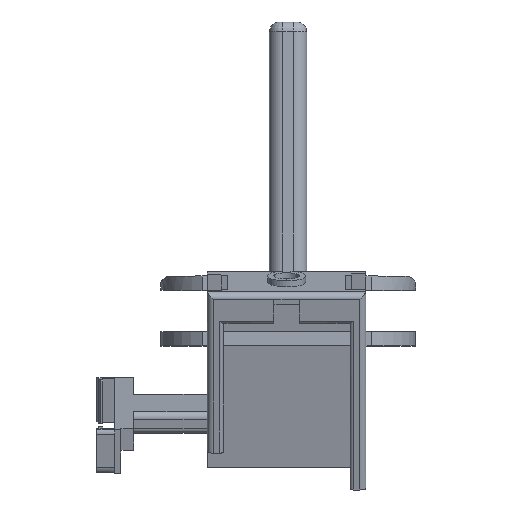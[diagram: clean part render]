
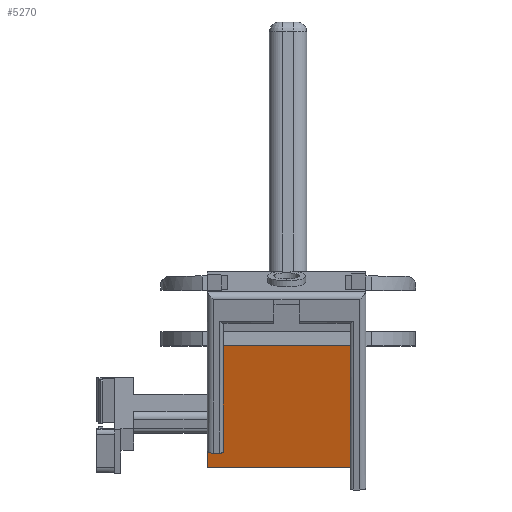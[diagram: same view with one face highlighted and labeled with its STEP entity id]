
A CAD part, top view. The second image highlights one B-rep face of the part: STEP entity #5270.
In plain terms, the highlighted planar face has unit normal (0, -0.259, 0.966).
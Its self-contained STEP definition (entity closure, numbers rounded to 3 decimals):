
#1767 = PLANE('',#1768);
#1768 = AXIS2_PLACEMENT_3D('',#1769,#1770,#1771);
#1769 = CARTESIAN_POINT('',(-95.487,-22.29,
    35.071));
#1770 = DIRECTION('',(-1.,0.,0.));
#1771 = DIRECTION('',(0.,0.259,-0.966
    ));
#3204 = PLANE('',#3205);
#3205 = AXIS2_PLACEMENT_3D('',#3206,#3207,#3208);
#3206 = CARTESIAN_POINT('',(-91.771,-15.118,
    8.305));
#3207 = DIRECTION('',(0.,-0.966,-0.259
    ));
#3208 = DIRECTION('',(0.,-0.259,0.966)
  );
#3369 = EDGE_CURVE('',#3370,#3372,#3374,.T.);
#3370 = VERTEX_POINT('',#3371);
#3371 = CARTESIAN_POINT('',(-95.487,-15.302,
    8.991));
#3372 = VERTEX_POINT('',#3373);
#3373 = CARTESIAN_POINT('',(-95.487,11.512,
    16.176));
#3374 = SURFACE_CURVE('',#3375,(#3379,#3386),.PCURVE_S1.);
#3375 = LINE('',#3376,#3377);
#3376 = CARTESIAN_POINT('',(-95.487,-26.893,
    5.885));
#3377 = VECTOR('',#3378,1.);
#3378 = DIRECTION('',(0.,0.966,0.259)
  );
#3379 = PCURVE('',#1767,#3380);
#3380 = DEFINITIONAL_REPRESENTATION('',(#3381),#3385);
#3381 = LINE('',#3382,#3383);
#3382 = CARTESIAN_POINT('',(27.,12.));
#3383 = VECTOR('',#3384,1.);
#3384 = DIRECTION('',(0.,-1.));
#3385 = ( GEOMETRIC_REPRESENTATION_CONTEXT(2) 
PARAMETRIC_REPRESENTATION_CONTEXT() REPRESENTATION_CONTEXT('2D SPACE',''
  ) );
#3386 = PCURVE('',#3387,#3392);
#3387 = PLANE('',#3388);
#3388 = AXIS2_PLACEMENT_3D('',#3389,#3390,#3391);
#3389 = CARTESIAN_POINT('',(-47.487,-26.893,
    5.885));
#3390 = DIRECTION('',(0.,0.259,-0.966
    ));
#3391 = DIRECTION('',(1.,0.,0.));
#3392 = DEFINITIONAL_REPRESENTATION('',(#3393),#3397);
#3393 = LINE('',#3394,#3395);
#3394 = CARTESIAN_POINT('',(-48.,0.));
#3395 = VECTOR('',#3396,1.);
#3396 = DIRECTION('',(0.,-1.));
#3397 = ( GEOMETRIC_REPRESENTATION_CONTEXT(2) 
PARAMETRIC_REPRESENTATION_CONTEXT() REPRESENTATION_CONTEXT('2D SPACE',''
  ) );
#3415 = PLANE('',#3416);
#3416 = AXIS2_PLACEMENT_3D('',#3417,#3418,#3419);
#3417 = CARTESIAN_POINT('',(-112.164,11.512,-30.));
#3418 = DIRECTION('',(0.,1.,0.));
#3419 = DIRECTION('',(0.,0.,-1.));
#3563 = CYLINDRICAL_SURFACE('',#3564,2.);
#3564 = AXIS2_PLACEMENT_3D('',#3565,#3566,#3567);
#3565 = CARTESIAN_POINT('',(-95.487,-26.893,
    5.885));
#3566 = DIRECTION('',(0.,0.966,0.259)
  );
#3567 = DIRECTION('',(0.,0.259,-0.966
    ));
#4987 = VERTEX_POINT('',#4988);
#4988 = CARTESIAN_POINT('',(-97.487,-15.302,
    8.991));
#5009 = EDGE_CURVE('',#3370,#4987,#5010,.T.);
#5010 = SURFACE_CURVE('',#5011,(#5015,#5022),.PCURVE_S1.);
#5011 = LINE('',#5012,#5013);
#5012 = CARTESIAN_POINT('',(-47.487,-15.302,
    8.991));
#5013 = VECTOR('',#5014,1.);
#5014 = DIRECTION('',(-1.,0.,0.));
#5015 = PCURVE('',#3204,#5016);
#5016 = DEFINITIONAL_REPRESENTATION('',(#5017),#5021);
#5017 = LINE('',#5018,#5019);
#5018 = CARTESIAN_POINT('',(0.71,-44.284));
#5019 = VECTOR('',#5020,1.);
#5020 = DIRECTION('',(0.,1.));
#5021 = ( GEOMETRIC_REPRESENTATION_CONTEXT(2) 
PARAMETRIC_REPRESENTATION_CONTEXT() REPRESENTATION_CONTEXT('2D SPACE',''
  ) );
#5022 = PCURVE('',#3387,#5023);
#5023 = DEFINITIONAL_REPRESENTATION('',(#5024),#5028);
#5024 = LINE('',#5025,#5026);
#5025 = CARTESIAN_POINT('',(0.,-12.));
#5026 = VECTOR('',#5027,1.);
#5027 = DIRECTION('',(-1.,0.));
#5028 = ( GEOMETRIC_REPRESENTATION_CONTEXT(2) 
PARAMETRIC_REPRESENTATION_CONTEXT() REPRESENTATION_CONTEXT('2D SPACE',''
  ) );
#5270 = ADVANCED_FACE('',(#5271),#3387,.F.);
#5271 = FACE_BOUND('',#5272,.T.);
#5272 = EDGE_LOOP('',(#5273,#5303,#5324,#5325,#5326,#5349));
#5273 = ORIENTED_EDGE('',*,*,#5274,.F.);
#5274 = EDGE_CURVE('',#5275,#5277,#5279,.T.);
#5275 = VERTEX_POINT('',#5276);
#5276 = CARTESIAN_POINT('',(-49.487,11.512,
    16.176));
#5277 = VERTEX_POINT('',#5278);
#5278 = CARTESIAN_POINT('',(-49.487,-26.893,
    5.885));
#5279 = SURFACE_CURVE('',#5280,(#5284,#5291),.PCURVE_S1.);
#5280 = LINE('',#5281,#5282);
#5281 = CARTESIAN_POINT('',(-49.487,-26.893,
    5.885));
#5282 = VECTOR('',#5283,1.);
#5283 = DIRECTION('',(0.,-0.966,-0.259
    ));
#5284 = PCURVE('',#3387,#5285);
#5285 = DEFINITIONAL_REPRESENTATION('',(#5286),#5290);
#5286 = LINE('',#5287,#5288);
#5287 = CARTESIAN_POINT('',(-2.,0.));
#5288 = VECTOR('',#5289,1.);
#5289 = DIRECTION('',(0.,1.));
#5290 = ( GEOMETRIC_REPRESENTATION_CONTEXT(2) 
PARAMETRIC_REPRESENTATION_CONTEXT() REPRESENTATION_CONTEXT('2D SPACE',''
  ) );
#5291 = PCURVE('',#5292,#5297);
#5292 = PLANE('',#5293);
#5293 = AXIS2_PLACEMENT_3D('',#5294,#5295,#5296);
#5294 = CARTESIAN_POINT('',(-49.487,-33.881,
    31.965));
#5295 = DIRECTION('',(1.,0.,0.));
#5296 = DIRECTION('',(0.,-0.259,0.966)
  );
#5297 = DEFINITIONAL_REPRESENTATION('',(#5298),#5302);
#5298 = LINE('',#5299,#5300);
#5299 = CARTESIAN_POINT('',(-27.,0.));
#5300 = VECTOR('',#5301,1.);
#5301 = DIRECTION('',(0.,1.));
#5302 = ( GEOMETRIC_REPRESENTATION_CONTEXT(2) 
PARAMETRIC_REPRESENTATION_CONTEXT() REPRESENTATION_CONTEXT('2D SPACE',''
  ) );
#5303 = ORIENTED_EDGE('',*,*,#5304,.T.);
#5304 = EDGE_CURVE('',#5275,#3372,#5305,.T.);
#5305 = SURFACE_CURVE('',#5306,(#5310,#5317),.PCURVE_S1.);
#5306 = LINE('',#5307,#5308);
#5307 = CARTESIAN_POINT('',(-112.164,11.512,
    16.176));
#5308 = VECTOR('',#5309,1.);
#5309 = DIRECTION('',(-1.,0.,0.));
#5310 = PCURVE('',#3387,#5311);
#5311 = DEFINITIONAL_REPRESENTATION('',(#5312),#5316);
#5312 = LINE('',#5313,#5314);
#5313 = CARTESIAN_POINT('',(-64.676,-39.76));
#5314 = VECTOR('',#5315,1.);
#5315 = DIRECTION('',(-1.,0.));
#5316 = ( GEOMETRIC_REPRESENTATION_CONTEXT(2) 
PARAMETRIC_REPRESENTATION_CONTEXT() REPRESENTATION_CONTEXT('2D SPACE',''
  ) );
#5317 = PCURVE('',#3415,#5318);
#5318 = DEFINITIONAL_REPRESENTATION('',(#5319),#5323);
#5319 = LINE('',#5320,#5321);
#5320 = CARTESIAN_POINT('',(-46.176,0.));
#5321 = VECTOR('',#5322,1.);
#5322 = DIRECTION('',(0.,1.));
#5323 = ( GEOMETRIC_REPRESENTATION_CONTEXT(2) 
PARAMETRIC_REPRESENTATION_CONTEXT() REPRESENTATION_CONTEXT('2D SPACE',''
  ) );
#5324 = ORIENTED_EDGE('',*,*,#3369,.F.);
#5325 = ORIENTED_EDGE('',*,*,#5009,.T.);
#5326 = ORIENTED_EDGE('',*,*,#5327,.F.);
#5327 = EDGE_CURVE('',#5328,#4987,#5330,.T.);
#5328 = VERTEX_POINT('',#5329);
#5329 = CARTESIAN_POINT('',(-97.487,-26.893,
    5.885));
#5330 = SURFACE_CURVE('',#5331,(#5335,#5342),.PCURVE_S1.);
#5331 = LINE('',#5332,#5333);
#5332 = CARTESIAN_POINT('',(-97.487,-26.893,
    5.885));
#5333 = VECTOR('',#5334,1.);
#5334 = DIRECTION('',(0.,0.966,0.259)
  );
#5335 = PCURVE('',#3387,#5336);
#5336 = DEFINITIONAL_REPRESENTATION('',(#5337),#5341);
#5337 = LINE('',#5338,#5339);
#5338 = CARTESIAN_POINT('',(-50.,0.));
#5339 = VECTOR('',#5340,1.);
#5340 = DIRECTION('',(0.,-1.));
#5341 = ( GEOMETRIC_REPRESENTATION_CONTEXT(2) 
PARAMETRIC_REPRESENTATION_CONTEXT() REPRESENTATION_CONTEXT('2D SPACE',''
  ) );
#5342 = PCURVE('',#3563,#5343);
#5343 = DEFINITIONAL_REPRESENTATION('',(#5344),#5348);
#5344 = LINE('',#5345,#5346);
#5345 = CARTESIAN_POINT('',(1.571,0.));
#5346 = VECTOR('',#5347,1.);
#5347 = DIRECTION('',(0.,1.));
#5348 = ( GEOMETRIC_REPRESENTATION_CONTEXT(2) 
PARAMETRIC_REPRESENTATION_CONTEXT() REPRESENTATION_CONTEXT('2D SPACE',''
  ) );
#5349 = ORIENTED_EDGE('',*,*,#5350,.F.);
#5350 = EDGE_CURVE('',#5277,#5328,#5351,.T.);
#5351 = SURFACE_CURVE('',#5352,(#5356,#5363),.PCURVE_S1.);
#5352 = LINE('',#5353,#5354);
#5353 = CARTESIAN_POINT('',(-47.487,-26.893,
    5.885));
#5354 = VECTOR('',#5355,1.);
#5355 = DIRECTION('',(-1.,0.,0.));
#5356 = PCURVE('',#3387,#5357);
#5357 = DEFINITIONAL_REPRESENTATION('',(#5358),#5362);
#5358 = LINE('',#5359,#5360);
#5359 = CARTESIAN_POINT('',(0.,0.));
#5360 = VECTOR('',#5361,1.);
#5361 = DIRECTION('',(-1.,0.));
#5362 = ( GEOMETRIC_REPRESENTATION_CONTEXT(2) 
PARAMETRIC_REPRESENTATION_CONTEXT() REPRESENTATION_CONTEXT('2D SPACE',''
  ) );
#5363 = PCURVE('',#5364,#5369);
#5364 = CYLINDRICAL_SURFACE('',#5365,2.);
#5365 = AXIS2_PLACEMENT_3D('',#5366,#5367,#5368);
#5366 = CARTESIAN_POINT('',(-91.771,-24.961,
    6.403));
#5367 = DIRECTION('',(-1.,0.,0.));
#5368 = DIRECTION('',(0.,0.259,-0.966
    ));
#5369 = DEFINITIONAL_REPRESENTATION('',(#5370),#5374);
#5370 = LINE('',#5371,#5372);
#5371 = CARTESIAN_POINT('',(1.571,-44.284));
#5372 = VECTOR('',#5373,1.);
#5373 = DIRECTION('',(0.,1.));
#5374 = ( GEOMETRIC_REPRESENTATION_CONTEXT(2) 
PARAMETRIC_REPRESENTATION_CONTEXT() REPRESENTATION_CONTEXT('2D SPACE',''
  ) );
